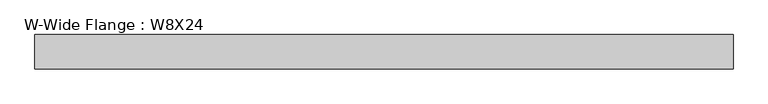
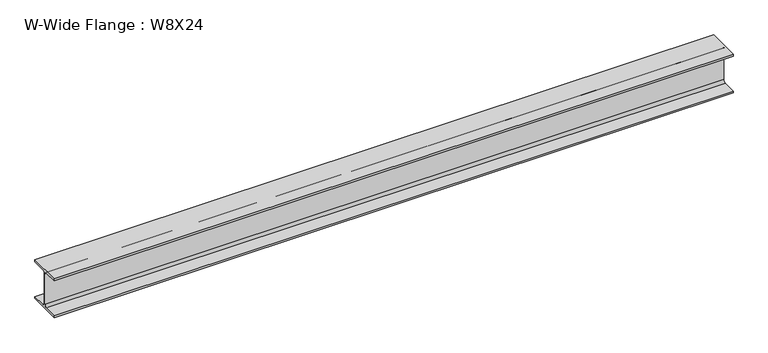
"""IFC4 building model written with IfcOpenShell, lengths in millimetres: beam geometry, W-Wide Flange : W8X24."""

from ifc_helpers import new_model, si_unit, point, frame, frame_2d, origin, place, context, project, spatial, polyline, circle_curve, trimmed, segment, composite_curve, outline, extrude, source, transform, mapped, element, save


def w_wide_flange_w8x24_30a310c4(model_context):
    return source(origin(), model_context, "Body", "SweptSolid", [
        extrude(outline(composite_curve([segment(polyline([(82.55, -90.551), (82.55, -100.711), (-82.55, -100.711), (-82.55, -90.551), (-15.1765, -90.551)]), True, "CONTINUOUS"), segment(trimmed(circle_curve(frame_2d((-15.1765, -78.486)), 12.065), [point((-15.1765, -90.551))], [point((-3.1115, -78.486))], True, "CARTESIAN"), True, "CONTINUOUS"), segment(polyline([(-3.1115, -78.486), (-3.1115, 78.486)]), True, "CONTINUOUS"), segment(trimmed(circle_curve(frame_2d((-15.1765, 78.486)), 12.065), [point((-3.1115, 78.486))], [point((-15.1765, 90.551))], True, "CARTESIAN"), True, "CONTINUOUS"), segment(polyline([(-15.1765, 90.551), (-82.55, 90.551), (-82.55, 100.711), (82.55, 100.711), (82.55, 90.551), (15.1765, 90.551)]), True, "CONTINUOUS"), segment(trimmed(circle_curve(frame_2d((15.1765, 78.486)), 12.065), [point((15.1765, 90.551))], [point((3.1115, 78.486))], True, "CARTESIAN"), True, "CONTINUOUS"), segment(polyline([(3.1115, 78.486), (3.1115, -78.486)]), True, "CONTINUOUS"), segment(trimmed(circle_curve(frame_2d((15.1765, -78.486)), 12.065), [point((3.1115, -78.486))], [point((15.1765, -90.551))], True, "CARTESIAN"), True, "CONTINUOUS"), segment(polyline([(15.1765, -90.551), (82.55, -90.551)]), True, "CONTINUOUS")], self_intersect=False)), frame((-1695.45, 0.0, 0.0), z_axis=(1.0, 0.0, 0.0), x_axis=(0.0, 1.0, 0.0)), (0.0, 0.0, 1.0), 3333.75),
    ])


if __name__ == "__main__":
    model = new_model("IFC4")
    model_context = context("Model", 3, world=origin())
    ifc_project = project(units=[si_unit("LENGTHUNIT", "METRE", prefix="MILLI")], contexts=[model_context])
    site = spatial("IfcSite", under=ifc_project)
    building = spatial("IfcBuilding", under=site)
    placement = place(None, origin())
    w_wide_flange_w8x24_shape = w_wide_flange_w8x24_30a310c4(model_context)
    element("IfcBeam", 1, ObjectType="W-Wide Flange : W8X24", at=placement, inside=building, context=model_context, shape_type="MappedRepresentation", body=[
        mapped(w_wide_flange_w8x24_shape, transform((0.0, 0.0, 0.0), x_axis=(1.0, 0.0, 0.0), y_axis=(0.0, 1.0, 0.0), z_axis=(0.0, 0.0, 1.0))),
    ])
    save(model, "model.ifc")
